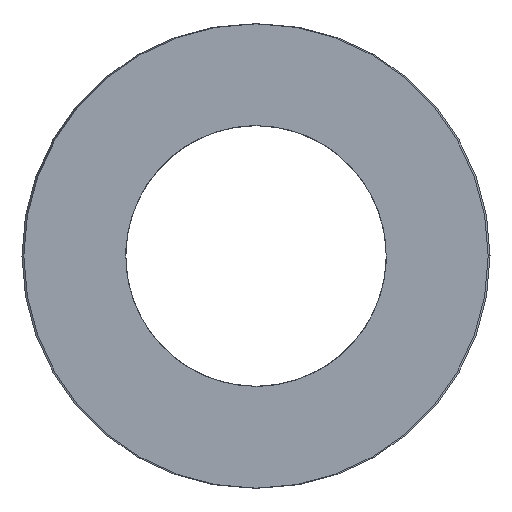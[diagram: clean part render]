
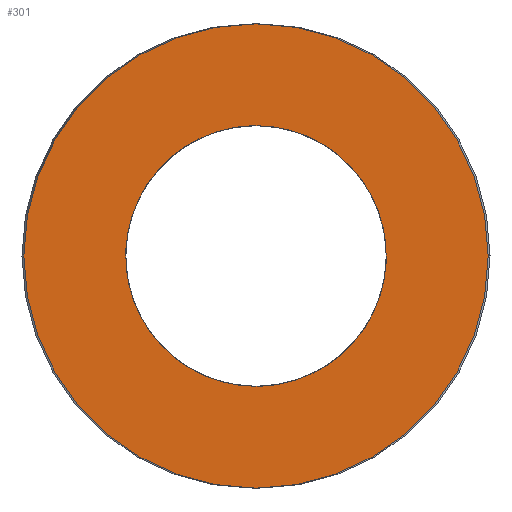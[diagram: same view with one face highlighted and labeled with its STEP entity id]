
A CAD part, left-side view. The second image highlights one B-rep face of the part: STEP entity #301.
In plain terms, the highlighted planar face has unit normal (-1, 0, 0).
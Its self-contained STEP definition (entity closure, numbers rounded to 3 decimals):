
#63=CARTESIAN_POINT('Vertex',(0.,15.5,0.)) ;
#77=CARTESIAN_POINT('Vertex',(0.,-15.5,0.)) ;
#80=CARTESIAN_POINT('Axis2P3D Location',(0.,0.,0.)) ;
#97=CARTESIAN_POINT('Axis2P3D Location',(0.,0.,0.)) ;
#232=CARTESIAN_POINT('Axis2P3D Location',(0.,7.75,0.)) ;
#242=CARTESIAN_POINT('Control Point',(0.,0.,-8.7)) ;
#243=CARTESIAN_POINT('Control Point',(0.,0.867,-8.7)) ;
#244=CARTESIAN_POINT('Control Point',(0.,1.734,-8.592)) ;
#245=CARTESIAN_POINT('Control Point',(0.,2.583,-8.376)) ;
#246=CARTESIAN_POINT('Control Point',(0.,4.209,-7.737)) ;
#247=CARTESIAN_POINT('Control Point',(0.,5.629,-6.719)) ;
#248=CARTESIAN_POINT('Control Point',(0.,6.272,-6.123)) ;
#249=CARTESIAN_POINT('Control Point',(0.,7.395,-4.785)) ;
#250=CARTESIAN_POINT('Control Point',(0.,8.156,-3.211)) ;
#251=CARTESIAN_POINT('Control Point',(0.,8.436,-2.381)) ;
#252=CARTESIAN_POINT('Control Point',(0.,8.783,-0.669)) ;
#253=CARTESIAN_POINT('Control Point',(0.,8.699,1.077)) ;
#254=CARTESIAN_POINT('Control Point',(0.,8.548,1.94)) ;
#255=CARTESIAN_POINT('Control Point',(0.,8.034,3.61)) ;
#256=CARTESIAN_POINT('Control Point',(0.,7.127,5.103)) ;
#257=CARTESIAN_POINT('Control Point',(0.,6.581,5.789)) ;
#258=CARTESIAN_POINT('Control Point',(0.,5.332,7.011)) ;
#259=CARTESIAN_POINT('Control Point',(0.,3.821,7.888)) ;
#260=CARTESIAN_POINT('Control Point',(0.,3.015,8.231)) ;
#261=CARTESIAN_POINT('Control Point',(0.,1.918,8.541)) ;
#262=CARTESIAN_POINT('Control Point',(0.,0.793,8.67)) ;
#263=CARTESIAN_POINT('Control Point',(0.,0.529,8.69)) ;
#264=CARTESIAN_POINT('Control Point',(0.,0.264,8.7)) ;
#265=CARTESIAN_POINT('Control Point',(0.,0.,8.7)) ;
#266=CARTESIAN_POINT('Vertex',(0.,0.,-8.7)) ;
#268=CARTESIAN_POINT('Vertex',(0.,0.,8.7)) ;
#272=CARTESIAN_POINT('Control Point',(0.,0.,8.7)) ;
#273=CARTESIAN_POINT('Control Point',(0.,-0.867,8.7)) ;
#274=CARTESIAN_POINT('Control Point',(0.,-1.734,8.592)) ;
#275=CARTESIAN_POINT('Control Point',(0.,-2.583,8.376)) ;
#276=CARTESIAN_POINT('Control Point',(0.,-4.209,7.737)) ;
#277=CARTESIAN_POINT('Control Point',(0.,-5.629,6.719)) ;
#278=CARTESIAN_POINT('Control Point',(0.,-6.272,6.123)) ;
#279=CARTESIAN_POINT('Control Point',(0.,-7.395,4.785)) ;
#280=CARTESIAN_POINT('Control Point',(0.,-8.156,3.211)) ;
#281=CARTESIAN_POINT('Control Point',(0.,-8.436,2.381)) ;
#282=CARTESIAN_POINT('Control Point',(0.,-8.783,0.669)) ;
#283=CARTESIAN_POINT('Control Point',(0.,-8.699,-1.077)) ;
#284=CARTESIAN_POINT('Control Point',(0.,-8.548,-1.94)) ;
#285=CARTESIAN_POINT('Control Point',(0.,-8.034,-3.61)) ;
#286=CARTESIAN_POINT('Control Point',(0.,-7.127,-5.103)) ;
#287=CARTESIAN_POINT('Control Point',(0.,-6.581,-5.789)) ;
#288=CARTESIAN_POINT('Control Point',(0.,-5.332,-7.011)) ;
#289=CARTESIAN_POINT('Control Point',(0.,-3.821,-7.888)) ;
#290=CARTESIAN_POINT('Control Point',(0.,-3.015,-8.231)) ;
#291=CARTESIAN_POINT('Control Point',(0.,-1.918,-8.541)) ;
#292=CARTESIAN_POINT('Control Point',(0.,-0.793,-8.67)) ;
#293=CARTESIAN_POINT('Control Point',(0.,-0.529,-8.69)) ;
#294=CARTESIAN_POINT('Control Point',(0.,-0.264,-8.7)) ;
#295=CARTESIAN_POINT('Control Point',(0.,0.,-8.7)) ;
#81=DIRECTION('Axis2P3D Direction',(1.,-0.,0.)) ;
#98=DIRECTION('Axis2P3D Direction',(1.,-0.,0.)) ;
#233=DIRECTION('Axis2P3D Direction',(-1.,0.,0.)) ;
#234=DIRECTION('Axis2P3D XDirection',(0.,1.,0.)) ;
#82=AXIS2_PLACEMENT_3D('Circle Axis2P3D',#80,#81,$) ;
#99=AXIS2_PLACEMENT_3D('Circle Axis2P3D',#97,#98,$) ;
#235=AXIS2_PLACEMENT_3D('Plane Axis2P3D',#232,#233,#234) ;
#238=ORIENTED_EDGE('',*,*,#84,.T.) ;
#239=ORIENTED_EDGE('',*,*,#101,.T.) ;
#298=ORIENTED_EDGE('',*,*,#270,.T.) ;
#299=ORIENTED_EDGE('',*,*,#296,.T.) ;
#300=FACE_BOUND('',#297,.T.) ;
#301=ADVANCED_FACE('392-B32-152',(#240,#300),#236,.T.) ;
#241=B_SPLINE_CURVE_WITH_KNOTS('',5,(#242,#243,#244,#245,#246,#247,#248,#249,#250,#251,#252,#253,#254,#255,#256,#257,#258,#259,#260,#261,#262,#263,#264,#265),.UNSPECIFIED.,.F.,.U.,(6,3,3,3,3,3,3,6),(0.,6.131,12.261,18.392,24.522,30.653,36.783,38.652),.UNSPECIFIED.) ;
#271=B_SPLINE_CURVE_WITH_KNOTS('',5,(#272,#273,#274,#275,#276,#277,#278,#279,#280,#281,#282,#283,#284,#285,#286,#287,#288,#289,#290,#291,#292,#293,#294,#295),.UNSPECIFIED.,.F.,.U.,(6,3,3,3,3,3,3,6),(0.,6.131,12.261,18.392,24.522,30.653,36.783,38.652),.UNSPECIFIED.) ;
#83=CIRCLE('generated circle',#82,15.5) ;
#100=CIRCLE('generated circle',#99,15.5) ;
#84=EDGE_CURVE('',#64,#78,#83,.F.) ;
#101=EDGE_CURVE('',#78,#64,#100,.F.) ;
#270=EDGE_CURVE('',#267,#269,#241,.T.) ;
#296=EDGE_CURVE('',#269,#267,#271,.T.) ;
#237=EDGE_LOOP('',(#238,#239)) ;
#297=EDGE_LOOP('',(#298,#299)) ;
#240=FACE_OUTER_BOUND('',#237,.T.) ;
#236=PLANE('Plane',#235) ;
#64=VERTEX_POINT('',#63) ;
#78=VERTEX_POINT('',#77) ;
#267=VERTEX_POINT('',#266) ;
#269=VERTEX_POINT('',#268) ;
